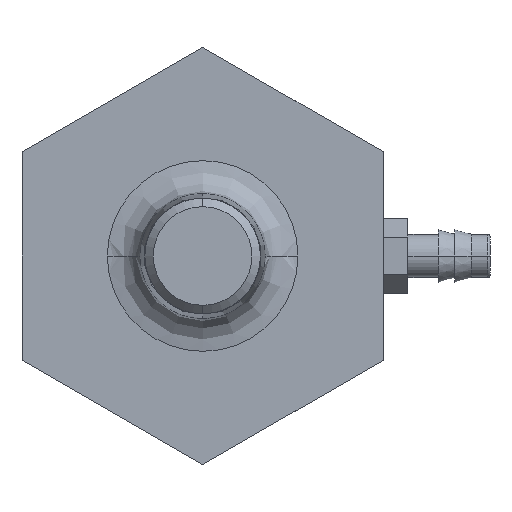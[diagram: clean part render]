
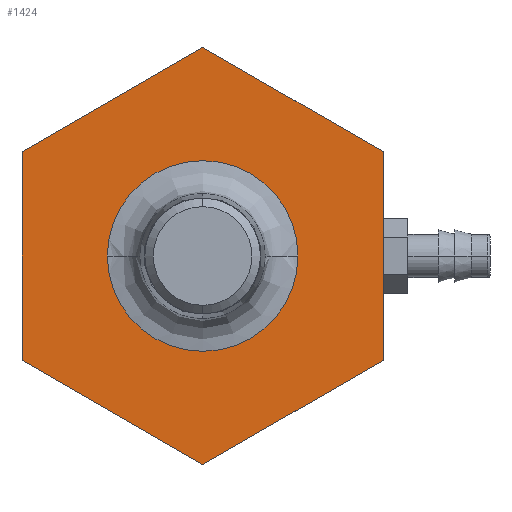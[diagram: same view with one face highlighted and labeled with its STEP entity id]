
A CAD part, left-side view. The second image highlights one B-rep face of the part: STEP entity #1424.
In plain terms, the highlighted planar face has unit normal (-1, 0, 0).
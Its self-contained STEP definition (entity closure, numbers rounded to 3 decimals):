
#1165=CARTESIAN_POINT('',(-2.75,0.363,0.));
#1166=VERTEX_POINT('',#1165);
#1176=CARTESIAN_POINT('',(-2.75,-0.363,0.));
#1177=VERTEX_POINT('',#1176);
#1178=CARTESIAN_POINT('',(-2.75,0.0,0.0));
#1179=DIRECTION('',(-1.0,0.0,0.0));
#1180=DIRECTION('',(0.0,0.0,1.0));
#1181=AXIS2_PLACEMENT_3D('',#1178,#1179,#1180);
#1182=CIRCLE('',#1181,0.363);
#1183=EDGE_CURVE('',#1166,#1177,#1182,.T.);
#1332=CARTESIAN_POINT('',(-2.75,0.0,0.363));
#1333=VERTEX_POINT('',#1332);
#1334=CARTESIAN_POINT('',(-2.75,0.0,0.0));
#1335=DIRECTION('',(-1.0,0.0,0.0));
#1336=DIRECTION('',(0.0,0.0,1.0));
#1337=AXIS2_PLACEMENT_3D('',#1334,#1335,#1336);
#1338=CIRCLE('',#1337,0.363);
#1339=EDGE_CURVE('',#1177,#1333,#1338,.T.);
#1341=CARTESIAN_POINT('',(-2.75,0.0,0.0));
#1342=DIRECTION('',(-1.0,0.0,0.0));
#1343=DIRECTION('',(0.0,0.0,1.0));
#1344=AXIS2_PLACEMENT_3D('',#1341,#1342,#1343);
#1345=CIRCLE('',#1344,0.363);
#1346=EDGE_CURVE('',#1333,#1166,#1345,.T.);
#1364=CARTESIAN_POINT('',(-2.75,0.,0.0));
#1365=DIRECTION('',(-1.0,0.0,0.0));
#1366=DIRECTION('',(0.0,0.0,1.0));
#1367=AXIS2_PLACEMENT_3D('',#1364,#1365,#1366);
#1368=PLANE('',#1367);
#1369=CARTESIAN_POINT('',(-2.75,0.688,0.397));
#1370=VERTEX_POINT('',#1369);
#1371=CARTESIAN_POINT('',(-2.75,0.0,0.794));
#1372=VERTEX_POINT('',#1371);
#1373=CARTESIAN_POINT('',(-2.75,0.688,0.397));
#1374=DIRECTION('',(0.0,-0.866,0.5));
#1375=VECTOR('',#1374,0.794);
#1376=LINE('',#1373,#1375);
#1377=EDGE_CURVE('',#1370,#1372,#1376,.T.);
#1378=ORIENTED_EDGE('',*,*,#1377,.F.);
#1379=CARTESIAN_POINT('',(-2.75,0.688,-0.397));
#1380=VERTEX_POINT('',#1379);
#1381=CARTESIAN_POINT('',(-2.75,0.688,-0.397));
#1382=DIRECTION('',(0.0,0.0,1.0));
#1383=VECTOR('',#1382,0.794);
#1384=LINE('',#1381,#1383);
#1385=EDGE_CURVE('',#1380,#1370,#1384,.T.);
#1386=ORIENTED_EDGE('',*,*,#1385,.F.);
#1387=CARTESIAN_POINT('',(-2.75,0.,-0.794));
#1388=VERTEX_POINT('',#1387);
#1389=CARTESIAN_POINT('',(-2.75,0.,-0.794));
#1390=DIRECTION('',(0.0,0.866,0.5));
#1391=VECTOR('',#1390,0.794);
#1392=LINE('',#1389,#1391);
#1393=EDGE_CURVE('',#1388,#1380,#1392,.T.);
#1394=ORIENTED_EDGE('',*,*,#1393,.F.);
#1395=CARTESIAN_POINT('',(-2.75,-0.688,-0.397));
#1396=VERTEX_POINT('',#1395);
#1397=CARTESIAN_POINT('',(-2.75,-0.688,-0.397));
#1398=DIRECTION('',(0.0,0.866,-0.5));
#1399=VECTOR('',#1398,0.794);
#1400=LINE('',#1397,#1399);
#1401=EDGE_CURVE('',#1396,#1388,#1400,.T.);
#1402=ORIENTED_EDGE('',*,*,#1401,.F.);
#1403=CARTESIAN_POINT('',(-2.75,-0.688,0.397));
#1404=VERTEX_POINT('',#1403);
#1405=CARTESIAN_POINT('',(-2.75,-0.688,0.397));
#1406=DIRECTION('',(0.0,0.0,-1.0));
#1407=VECTOR('',#1406,0.794);
#1408=LINE('',#1405,#1407);
#1409=EDGE_CURVE('',#1404,#1396,#1408,.T.);
#1410=ORIENTED_EDGE('',*,*,#1409,.F.);
#1411=CARTESIAN_POINT('',(-2.75,0.0,0.794));
#1412=DIRECTION('',(0.0,-0.866,-0.5));
#1413=VECTOR('',#1412,0.794);
#1414=LINE('',#1411,#1413);
#1415=EDGE_CURVE('',#1372,#1404,#1414,.T.);
#1416=ORIENTED_EDGE('',*,*,#1415,.F.);
#1417=EDGE_LOOP('',(#1378,#1386,#1394,#1402,#1410,#1416));
#1418=FACE_OUTER_BOUND('',#1417,.T.);
#1419=ORIENTED_EDGE('',*,*,#1346,.F.);
#1420=ORIENTED_EDGE('',*,*,#1339,.F.);
#1421=ORIENTED_EDGE('',*,*,#1183,.F.);
#1422=EDGE_LOOP('',(#1419,#1420,#1421));
#1423=FACE_BOUND('',#1422,.T.);
#1424=ADVANCED_FACE('',(#1418,#1423),#1368,.T.);
